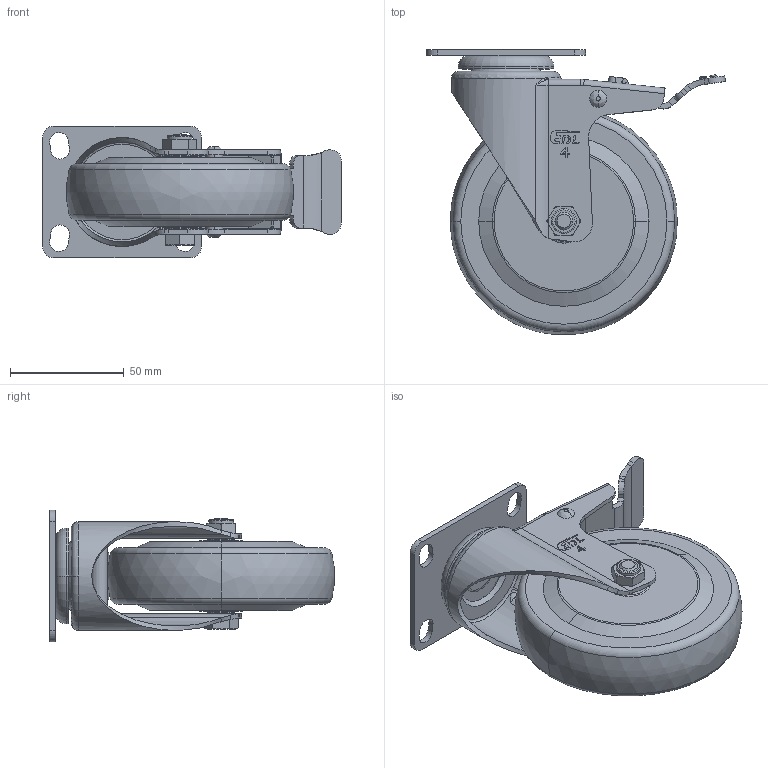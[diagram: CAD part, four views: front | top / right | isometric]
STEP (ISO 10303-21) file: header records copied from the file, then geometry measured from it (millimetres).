
FILE_DESCRIPTION((''),'2;1');
FILE_NAME('S34724L_ASM','2021-07-26T',('lenovo'),(''),'PRO/ENGINEER BY PARAMETRIC TECHNOLOGY CORPORATION, 2010280','PRO/ENGINEER BY PARAMETRIC TECHNOLOGY CORPORATION, 2010280','');
FILE_SCHEMA(('CONFIG_CONTROL_DESIGN'));
Length unit declared in the file: millimetre
Products named in the file (7): S340-01; S344-12; 364-964; S340-33; S340-34; S340-14; S34724L_ASM
Assembly tree (6 placements, depth 2):
  S34724L_ASM
    S340-01
    S344-12
    364-964
    S340-33
    S340-34
    S340-14
Bounding box: 131.61 x 125.36 x 58 mm (x, y, z)
Volume: 253451.6 mm3; surface area: 60984.1 mm2
Topology: 8 solids, 8 shells, 363 faces, 878 edges, 550 vertices
Faces by surface type: plane 157, cylinder 105, torus 46, bspline 31, cone 24
Entity records: 12270 total; most frequent: CARTESIAN_POINT 3625, DIRECTION 1798, ORIENTED_EDGE 1756, EDGE_CURVE 878, AXIS2_PLACEMENT_3D 675, VERTEX_POINT 550, VECTOR 448, LINE 448
